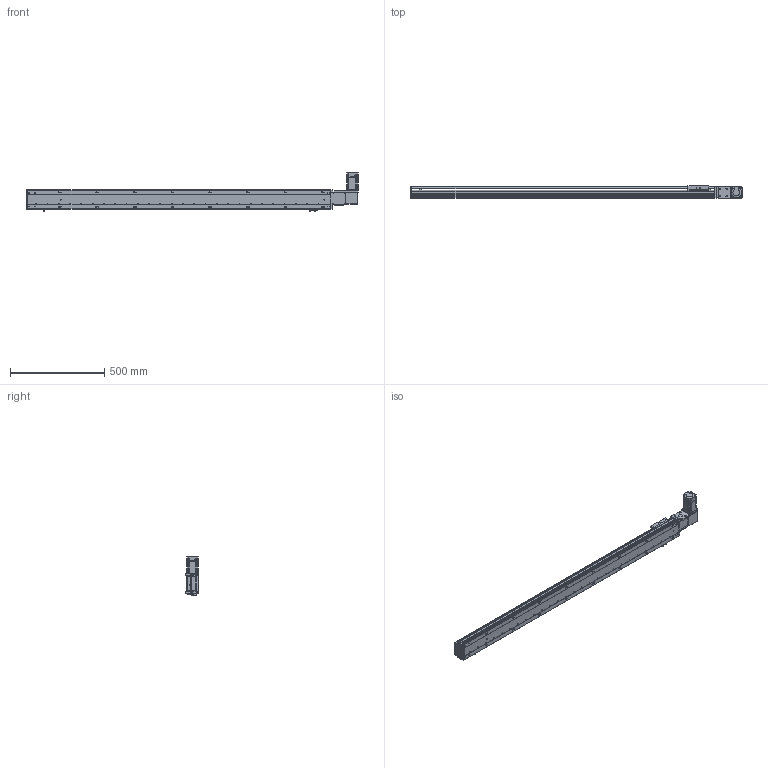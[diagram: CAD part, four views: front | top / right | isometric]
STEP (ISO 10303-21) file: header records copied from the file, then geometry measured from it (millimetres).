
FILE_DESCRIPTION (( 'STEP AP203' ), '1' );
FILE_NAME ('RY100-T-300-RK.SLDASM_1400.step', '2024-04-25T08:23:09', ( '盈信电脑' ), ( '东莞市道滘镇水果街19号' ), 'SwSTEP 2.0', 'SolidWorks 2016', '' );
FILE_SCHEMA (( 'CONFIG_CONTROL_DESIGN' ));
Length unit declared in the file: millimetre
Products named in the file (15): RY100-T肮祭謫臏賑輸; RY100-T左右折电机安装板; RY100-T-300-RK倰第菁釱_1400; RY80-T肮祭謫俋欶; RY100-T翋肮祭謫裔啣2; RY100-T-300-RK倰第奻裔_1400; RY100綴裔啣; 滅袉蝶18-10; RY100-T-300-RK.SLDASM_1400; 1; 侂狟200W萇儂; RY100-T肮祭謫翋盓傅釱; 覜茼ん672; RY100俋离覜茼え; RY100-T粣創揤踡裔
Assembly tree (18 placements, depth 3):
  RY100-T-300-RK.SLDASM_1400
    RY100-T-300-RK倰第菁釱_1400
    RY100-T-300-RK倰第奻裔_1400
    RY100-T肮祭謫臏賑輸
    RY100綴裔啣
    覜茼ん672  x3
    RY100俋离覜茼え
    RY100-T肮祭謫翋盓傅釱
    RY100-T左右折电机安装板
    侂狟200W萇儂
      1
    RY100-T粣創揤踡裔
    滅袉蝶18-10  x2
    RY100-T翋肮祭謫裔啣2  x2
    RY80-T肮祭謫俋欶
Bounding box: 1764 x 66 x 209.7 mm (x, y, z)
Volume: 3265316 mm3; surface area: 1362327.5 mm2
Topology: 17 solids, 17 shells, 2219 faces, 6188 edges, 4024 vertices
Faces by surface type: plane 1193, cylinder 815, cone 133, bspline 78
Entity records: 71220 total; most frequent: CARTESIAN_POINT 17239, ORIENTED_EDGE 11112, DIRECTION 10580, EDGE_CURVE 5556, VERTEX_POINT 3660, VECTOR 3568, LINE 3568, AXIS2_PLACEMENT_3D 3506
